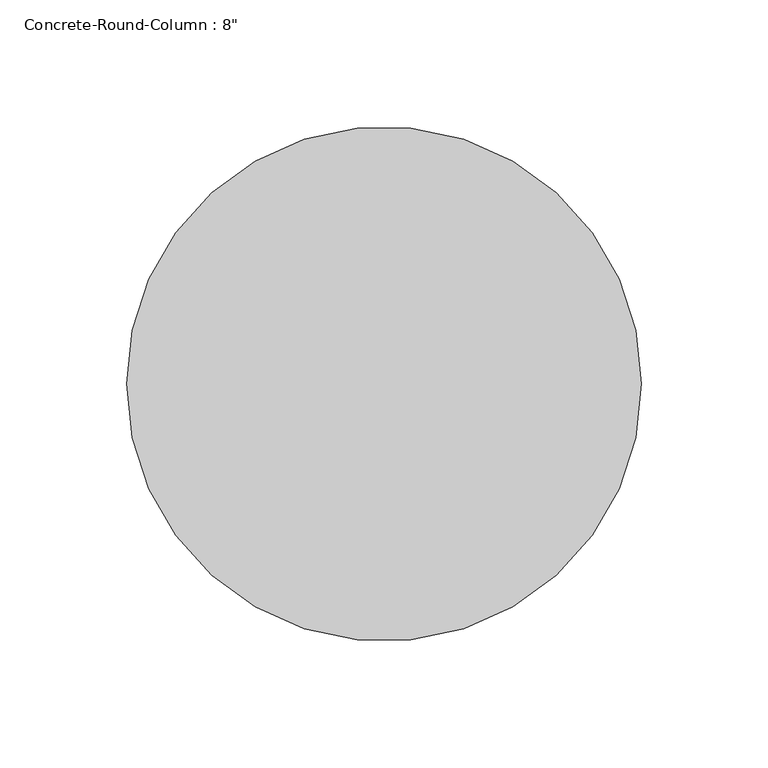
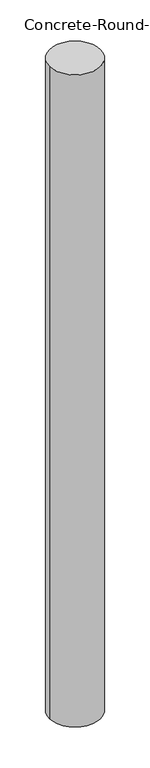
"""IFC4 building model written with IfcOpenShell, lengths in millimetres: column geometry."""

from ifc_helpers import new_model, si_unit, point, origin, origin_with_axes, origin_2d, place, context, project, spatial, circle_curve, trimmed, segment, composite_curve, outline, extrude, source, transform, mapped, element, save


def column_0297f9bf(model_context):
    return source(origin(), model_context, "Body", "SweptSolid", [
        extrude(outline(composite_curve([segment(trimmed(circle_curve(origin_2d(), 101.6), [point((-101.6, 0.0))], [point((101.6, 0.0))], False, "CARTESIAN"), True, "CONTINUOUS"), segment(trimmed(circle_curve(origin_2d(), 101.6), [point((101.6, 0.0))], [point((-101.6, 0.0))], False, "CARTESIAN"), True, "CONTINUOUS")], self_intersect=False)), origin_with_axes(), (0.0, 0.0, 1.0), 2743.2),
    ])


if __name__ == "__main__":
    model = new_model("IFC4")
    model_context = context("Model", 3, world=origin())
    ifc_project = project(units=[si_unit("LENGTHUNIT", "METRE", prefix="MILLI")], contexts=[model_context])
    site = spatial("IfcSite", under=ifc_project)
    building = spatial("IfcBuilding", under=site)
    placement = place(None, origin())
    column_shape = column_0297f9bf(model_context)
    element("IfcColumn", 1, ObjectType="Concrete-Round-Column : 8\"", at=placement, inside=building, context=model_context, shape_type="MappedRepresentation", body=[
        mapped(column_shape, transform((0.0, 0.0, 0.0), x_axis=(1.0, 0.0, 0.0), y_axis=(0.0, 1.0, 0.0), z_axis=(0.0, 0.0, 1.0))),
    ])
    save(model, "model.ifc")
